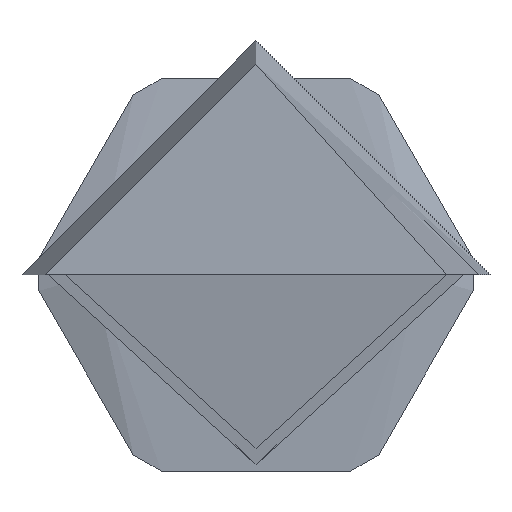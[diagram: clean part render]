
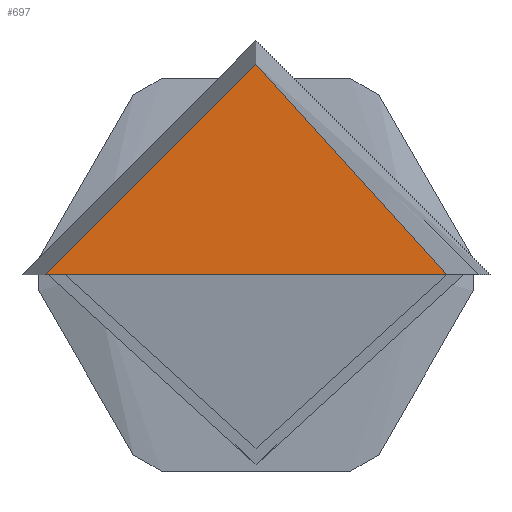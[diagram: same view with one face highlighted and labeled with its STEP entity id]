
A CAD part, left-side view. The second image highlights one B-rep face of the part: STEP entity #697.
In plain terms, the highlighted free-form (B-spline) face has degree [1, 1] with [2, 2] control points.
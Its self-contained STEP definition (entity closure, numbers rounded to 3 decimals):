
#697 = ADVANCED_FACE('',(#698,#720),#742,.T.);
#698 = FACE_BOUND('',#699,.T.);
#699 = EDGE_LOOP('',(#700,#710));
#700 = ORIENTED_EDGE('',*,*,#701,.F.);
#701 = EDGE_CURVE('',#702,#704,#706,.T.);
#702 = VERTEX_POINT('',#703);
#703 = CARTESIAN_POINT('',(0.,19.35,0.));
#704 = VERTEX_POINT('',#705);
#705 = CARTESIAN_POINT('',(0.,0.,19.35));
#706 = ( BOUNDED_CURVE() B_SPLINE_CURVE(2,(#707,#708,#709),
.UNSPECIFIED.,.F.,.F.) B_SPLINE_CURVE_WITH_KNOTS((3,3),(0.,
1.571),.PIECEWISE_BEZIER_KNOTS.) CURVE() 
GEOMETRIC_REPRESENTATION_ITEM() RATIONAL_B_SPLINE_CURVE((1.,
0.707,1.)) REPRESENTATION_ITEM('') );
#707 = CARTESIAN_POINT('',(0.,19.35,0.));
#708 = CARTESIAN_POINT('',(0.,19.35,19.35));
#709 = CARTESIAN_POINT('',(0.,0.,19.35));
#710 = ORIENTED_EDGE('',*,*,#711,.F.);
#711 = EDGE_CURVE('',#704,#702,#712,.T.);
#712 = ( BOUNDED_CURVE() B_SPLINE_CURVE(2,(#713,#714,#715,#716,#717,#718
,#719),.UNSPECIFIED.,.F.,.F.) B_SPLINE_CURVE_WITH_KNOTS((3,2,2,3),(
    1.571,3.142,4.712,6.283),
.UNSPECIFIED.) CURVE() GEOMETRIC_REPRESENTATION_ITEM() 
RATIONAL_B_SPLINE_CURVE((1.,0.707,1.,0.707,1.,
0.707,1.)) REPRESENTATION_ITEM('') );
#713 = CARTESIAN_POINT('',(0.,0.,19.35));
#714 = CARTESIAN_POINT('',(0.,-19.35,19.35));
#715 = CARTESIAN_POINT('',(0.,-19.35,0.));
#716 = CARTESIAN_POINT('',(0.,-19.35,-19.35));
#717 = CARTESIAN_POINT('',(0.,0.,-19.35));
#718 = CARTESIAN_POINT('',(0.,19.35,-19.35));
#719 = CARTESIAN_POINT('',(0.,19.35,0.));
#720 = FACE_BOUND('',#721,.T.);
#721 = EDGE_LOOP('',(#722,#734));
#722 = ORIENTED_EDGE('',*,*,#723,.T.);
#723 = EDGE_CURVE('',#724,#726,#728,.T.);
#724 = VERTEX_POINT('',#725);
#725 = CARTESIAN_POINT('',(0.,17.5,0.));
#726 = VERTEX_POINT('',#727);
#727 = CARTESIAN_POINT('',(0.,-17.5,0.));
#728 = ( BOUNDED_CURVE() B_SPLINE_CURVE(2,(#729,#730,#731,#732,#733),
.UNSPECIFIED.,.F.,.F.) B_SPLINE_CURVE_WITH_KNOTS((3,2,3),(0.,
1.571,3.142),.UNSPECIFIED.) CURVE() 
GEOMETRIC_REPRESENTATION_ITEM() RATIONAL_B_SPLINE_CURVE((1.,
0.707,1.,0.707,1.)) REPRESENTATION_ITEM('') );
#729 = CARTESIAN_POINT('',(0.,17.5,0.));
#730 = CARTESIAN_POINT('',(0.,17.5,17.5));
#731 = CARTESIAN_POINT('',(0.,0.,17.5));
#732 = CARTESIAN_POINT('',(0.,-17.5,17.5));
#733 = CARTESIAN_POINT('',(0.,-17.5,0.));
#734 = ORIENTED_EDGE('',*,*,#735,.T.);
#735 = EDGE_CURVE('',#726,#724,#736,.T.);
#736 = ( BOUNDED_CURVE() B_SPLINE_CURVE(2,(#737,#738,#739,#740,#741),
.UNSPECIFIED.,.F.,.F.) B_SPLINE_CURVE_WITH_KNOTS((3,2,3),(3.142,
4.712,6.283),.PIECEWISE_BEZIER_KNOTS.) CURVE() 
GEOMETRIC_REPRESENTATION_ITEM() RATIONAL_B_SPLINE_CURVE((1.,
0.707,1.,0.707,1.)) REPRESENTATION_ITEM('') );
#737 = CARTESIAN_POINT('',(0.,-17.5,0.));
#738 = CARTESIAN_POINT('',(0.,-17.5,-17.5));
#739 = CARTESIAN_POINT('',(0.,0.,-17.5));
#740 = CARTESIAN_POINT('',(0.,17.5,-17.5));
#741 = CARTESIAN_POINT('',(0.,17.5,0.));
#742 = B_SPLINE_SURFACE_WITH_KNOTS('',1,1,(
    (#743,#744)
    ,(#745,#746
    )),.UNSPECIFIED.,.F.,.F.,.F.,(2,2),(2,2),(-1.936,1.936),(-3.779,
    0.094),.PIECEWISE_BEZIER_KNOTS.);
#743 = CARTESIAN_POINT('',(0.,-19.36,-19.36));
#744 = CARTESIAN_POINT('',(0.,19.36,-19.36));
#745 = CARTESIAN_POINT('',(0.,-19.36,19.36));
#746 = CARTESIAN_POINT('',(0.,19.36,19.36));
